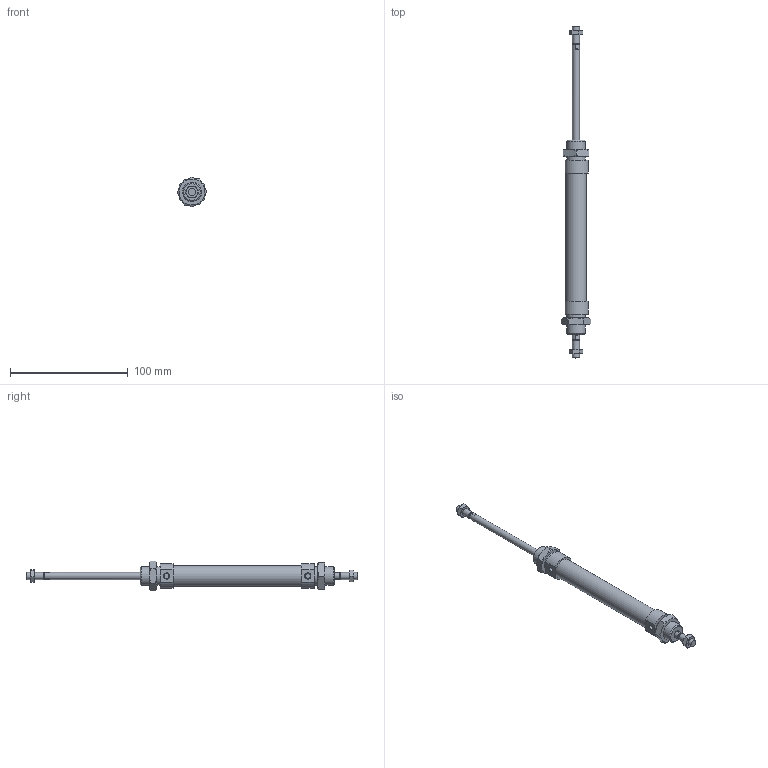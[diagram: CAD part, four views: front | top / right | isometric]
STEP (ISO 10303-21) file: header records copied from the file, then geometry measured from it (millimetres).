
FILE_DESCRIPTION((''),'2;1');
FILE_NAME('I:\Area Tecnica\Disegni\VARIE-3D\Componenti\1280\1282_##_####_#\1282_16_0075.iam.stp','2009-06-03T15:24:38',(''),(''),'Autodesk Inventor 2010','Autodesk Inventor 2010','');
FILE_SCHEMA(('AUTOMOTIVE_DESIGN { 1 0 10303 214 1 1 1 1 }'));
Length unit declared in the file: millimetre
Products named in the file (5): 1282_16_0075; C1282_16_75; S1282_16_75; 1200_16_05; 1200_16_06
Assembly tree (6 placements, depth 2):
  1282_16_0075
    C1282_16_75
    S1282_16_75
    1200_16_05  x2
    1200_16_06  x2
Bounding box: 25.4 x 282 x 25.4 mm (x, y, z)
Volume: 46078.6 mm3; surface area: 21384.5 mm2
Topology: 6 solids, 6 shells, 135 faces, 283 edges, 168 vertices
Faces by surface type: plane 56, cone 52, bspline 16, cylinder 11
Full cylindrical faces by diameter (mm): 5 x2, 6 x4, 16 x2, 17.2 x1
Entity records: 2543 total; most frequent: CARTESIAN_POINT 619, DIRECTION 358, ORIENTED_EDGE 316, AXIS2_PLACEMENT_3D 159, EDGE_CURVE 158, EDGE_LOOP 124, VERTEX_POINT 106, STYLED_ITEM 93
